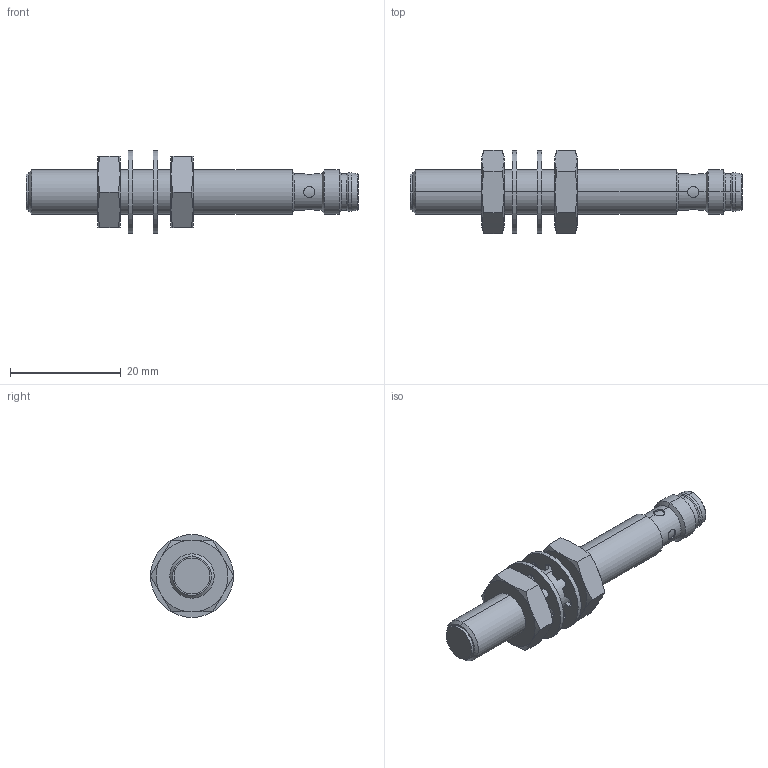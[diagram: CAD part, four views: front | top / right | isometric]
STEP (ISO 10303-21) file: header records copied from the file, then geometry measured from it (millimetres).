
FILE_DESCRIPTION (( 'STEP AP203' ), '1' );
FILE_NAME ('Asutec_15000058.STEP', '2023-03-07T15:47:58', ( '' ), ( '' ), 'SwSTEP 2.0', 'SolidWorks 2020', '' );
FILE_SCHEMA (( 'CONFIG_CONTROL_DESIGN' ));
Length unit declared in the file: millimetre
Products named in the file (1): Asutec_15000058
Bounding box: 60 x 15.01 x 15 mm (x, y, z)
Volume: 3755.1 mm3; surface area: 3193.9 mm2
Topology: 5 solids, 5 shells, 198 faces, 469 edges, 288 vertices
Faces by surface type: cylinder 79, plane 59, cone 58, torus 2
Entity records: 7136 total; most frequent: CARTESIAN_POINT 2468, DIRECTION 989, ORIENTED_EDGE 938, EDGE_CURVE 469, AXIS2_PLACEMENT_3D 385, VERTEX_POINT 288, LINE 219, VECTOR 219
